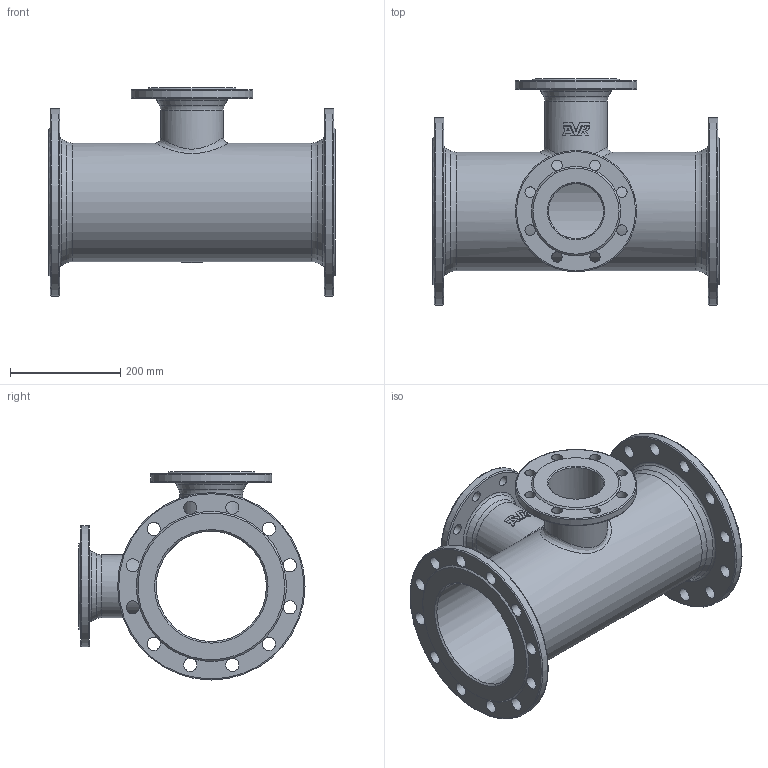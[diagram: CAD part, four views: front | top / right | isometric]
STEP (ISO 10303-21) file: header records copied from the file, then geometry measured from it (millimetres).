
FILE_DESCRIPTION (( 'STEP AP203' ), '1' );
FILE_NAME ('O_712_1110_DN100_DN200_1_AA1.step', '2017-10-13T08:08:31', ( 'Windows User' ), ( 'AVK' ), 'SwSTEP 2.0', 'SolidWorks 2012', '' );
FILE_SCHEMA (( 'CONFIG_CONTROL_DESIGN' ));
Length unit declared in the file: millimetre
Products named in the file (1): O_712_1110_DN100_DN200_1_AA1
Bounding box: 520 x 410 x 377.5 mm (x, y, z)
Volume: 5806591.4 mm3; surface area: 1164951.9 mm2
Topology: 1 solids, 1 shells, 172 faces, 578 edges, 379 vertices
Faces by surface type: bspline 58, cylinder 54, plane 32, torus 16, cone 12
Full cylindrical faces by diameter (mm): 19 x16, 24 x24, 100 x2, 114 x2, 200 x1, 215 x1, 220 x2, 340 x2
Entity records: 10179 total; most frequent: CARTESIAN_POINT 6125, ORIENTED_EDGE 868, DIRECTION 630, EDGE_CURVE 434, VERTEX_POINT 320, EDGE_LOOP 314, AXIS2_PLACEMENT_3D 311, FACE_OUTER_BOUND 242
